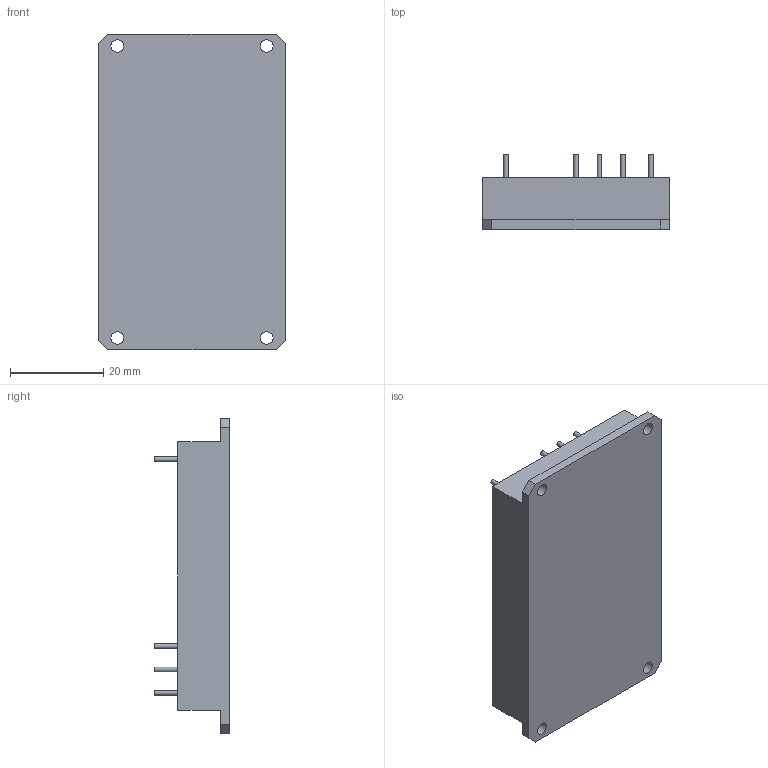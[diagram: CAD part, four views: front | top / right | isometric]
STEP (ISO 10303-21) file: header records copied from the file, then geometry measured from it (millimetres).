
FILE_DESCRIPTION(/* description */ (''),/* implementation_level */ '2;1');
FILE_NAME(/* name */ '',/* time_stamp */ '2020-02-18T13:54:23+01:00',/* author */ (''),/* organization */ (''),/* preprocessor_version */ 'ST-DEVELOPER v16.5',/* originating_system */ '',/* authorisation */ '');
FILE_SCHEMA (('AUTOMOTIVE_DESIGN { 1 0 10303 214 3 1 1 }'));
Length unit declared in the file: millimetre
Products named in the file (1): TESND120-F3_case_pins
Bounding box: 40 x 16 x 67.5 mm (x, y, z)
Volume: 23939.2 mm3; surface area: 7899.2 mm2
Topology: 1 solids, 2 shells, 43 faces, 96 edges, 64 vertices
Faces by surface type: plane 27, cylinder 15, cone 1
Full cylindrical faces by diameter (mm): 1 x7, 2.7 x4
Entity records: 1176 total; most frequent: DIRECTION 202, CARTESIAN_POINT 190, ORIENTED_EDGE 166, EDGE_CURVE 83, AXIS2_PLACEMENT_3D 75, EDGE_LOOP 70, VERTEX_POINT 63, LINE 52
